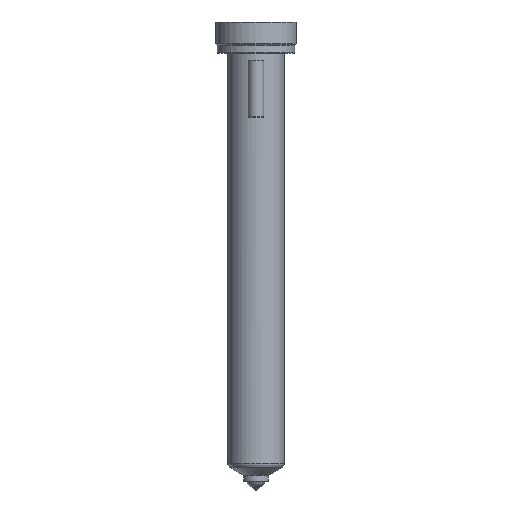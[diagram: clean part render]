
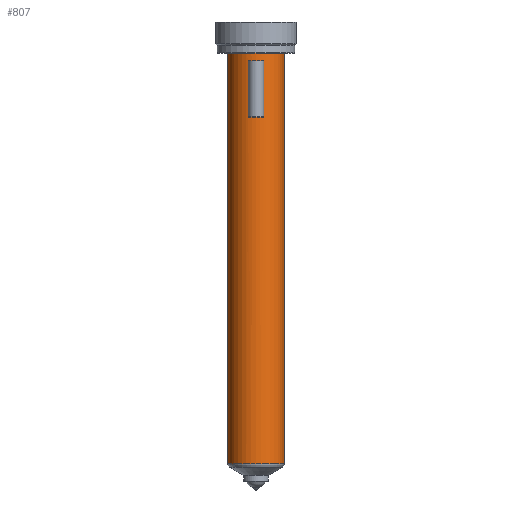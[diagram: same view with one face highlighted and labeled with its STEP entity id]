
A CAD part, top view. The second image highlights one B-rep face of the part: STEP entity #807.
In plain terms, the highlighted cylindrical face has radius 9 mm (diameter 18 mm), a partial arc.
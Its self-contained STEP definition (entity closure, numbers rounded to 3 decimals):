
#193=DIRECTION('',(0.,-1.,0.));
#194=VECTOR('',#193,131.544);
#195=CARTESIAN_POINT('',(9.,0.,0.));
#196=LINE('',#195,#194);
#197=CARTESIAN_POINT('',(0.,-131.544,0.));
#198=DIRECTION('',(0.,1.,0.));
#199=DIRECTION('',(-1.,0.,0.));
#200=AXIS2_PLACEMENT_3D('',#197,#198,#199);
#202=DIRECTION('',(0.,1.,0.));
#203=VECTOR('',#202,131.544);
#204=CARTESIAN_POINT('',(-9.,-131.544,0.));
#205=LINE('',#204,#203);
#206=CARTESIAN_POINT('',(0.,0.,0.));
#207=DIRECTION('',(0.,1.,0.));
#208=DIRECTION('',(-1.,0.,0.));
#209=AXIS2_PLACEMENT_3D('',#206,#207,#208);
#211=DIRECTION('',(0.,-1.,0.));
#212=VECTOR('',#211,18.);
#213=CARTESIAN_POINT('',(-2.5,-2.5,8.646));
#214=LINE('',#213,#212);
#215=DIRECTION('',(0.,1.,0.));
#216=VECTOR('',#215,18.);
#217=CARTESIAN_POINT('',(2.5,-20.5,8.646));
#218=LINE('',#217,#216);
#385=CARTESIAN_POINT('',(0.,-2.5,0.));
#386=DIRECTION('',(0.,-1.,0.));
#387=DIRECTION('',(0.278,0.,0.961));
#388=AXIS2_PLACEMENT_3D('',#385,#386,#387);
#403=CARTESIAN_POINT('',(0.,-20.5,0.));
#404=DIRECTION('',(0.,1.,0.));
#405=DIRECTION('',(-0.278,0.,0.961));
#406=AXIS2_PLACEMENT_3D('',#403,#404,#405);
#482=CARTESIAN_POINT('',(-9.,0.,0.));
#483=CARTESIAN_POINT('',(9.,0.,0.));
#484=VERTEX_POINT('',#482);
#485=VERTEX_POINT('',#483);
#494=CARTESIAN_POINT('',(-2.5,-2.5,8.646));
#495=VERTEX_POINT('',#494);
#496=CARTESIAN_POINT('',(2.5,-2.5,8.646));
#497=VERTEX_POINT('',#496);
#534=CARTESIAN_POINT('',(9.,-131.544,0.));
#535=VERTEX_POINT('',#534);
#544=CARTESIAN_POINT('',(-9.,-131.544,0.));
#545=VERTEX_POINT('',#544);
#566=CARTESIAN_POINT('',(-2.5,-20.5,8.646));
#567=CARTESIAN_POINT('',(2.5,-20.5,8.646));
#568=VERTEX_POINT('',#566);
#569=VERTEX_POINT('',#567);
#785=CARTESIAN_POINT('',(0.,11.15,0.));
#786=DIRECTION('',(0.,-1.,0.));
#787=DIRECTION('',(-1.,0.,0.));
#788=AXIS2_PLACEMENT_3D('',#785,#786,#787);
#789=CYLINDRICAL_SURFACE('',#788,9.);
#790=ORIENTED_EDGE('',*,*,#779,.T.);
#792=ORIENTED_EDGE('',*,*,#791,.F.);
#793=ORIENTED_EDGE('',*,*,#775,.T.);
#794=ORIENTED_EDGE('',*,*,#765,.T.);
#795=EDGE_LOOP('',(#790,#792,#793,#794));
#796=FACE_OUTER_BOUND('',#795,.F.);
#798=ORIENTED_EDGE('',*,*,#797,.T.);
#800=ORIENTED_EDGE('',*,*,#799,.T.);
#802=ORIENTED_EDGE('',*,*,#801,.T.);
#804=ORIENTED_EDGE('',*,*,#803,.T.);
#805=EDGE_LOOP('',(#798,#800,#802,#804));
#806=FACE_BOUND('',#805,.F.);
#807=ADVANCED_FACE('',(#796,#806),#789,.T.);
#201=CIRCLE('',#200,9.);
#210=CIRCLE('',#209,9.);
#389=CIRCLE('',#388,9.);
#407=CIRCLE('',#406,9.);
#765=EDGE_CURVE('',#484,#485,#210,.T.);
#775=EDGE_CURVE('',#545,#484,#205,.T.);
#779=EDGE_CURVE('',#485,#535,#196,.T.);
#791=EDGE_CURVE('',#545,#535,#201,.T.);
#797=EDGE_CURVE('',#495,#568,#214,.T.);
#799=EDGE_CURVE('',#568,#569,#407,.T.);
#801=EDGE_CURVE('',#569,#497,#218,.T.);
#803=EDGE_CURVE('',#497,#495,#389,.T.);
